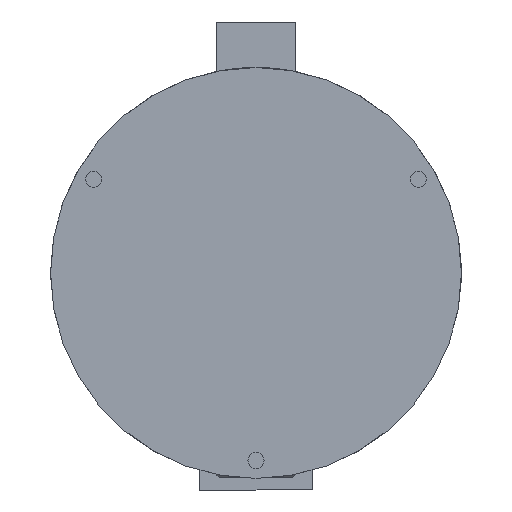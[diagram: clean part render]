
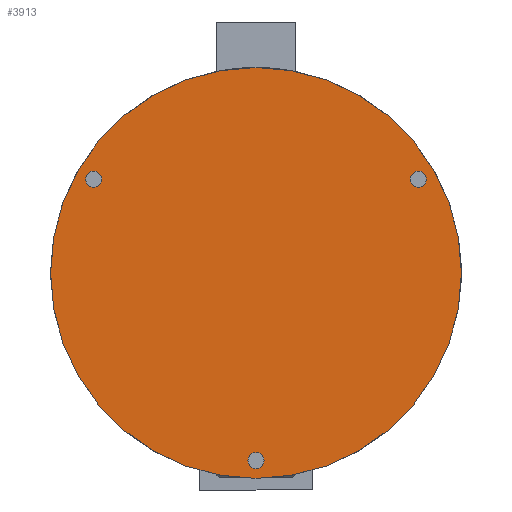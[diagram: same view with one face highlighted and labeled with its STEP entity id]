
A CAD part, front view. The second image highlights one B-rep face of the part: STEP entity #3913.
In plain terms, the highlighted planar face has unit normal (0, -1, 0).
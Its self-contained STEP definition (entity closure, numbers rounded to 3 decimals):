
#88 = AXIS2_PLACEMENT_3D ( 'NONE', #1380, #4863, #7116 ) ;
#148 = EDGE_CURVE ( 'NONE', #1123, #1282, #7317, .T. ) ;
#199 = CARTESIAN_POINT ( 'NONE',  ( -90.933, 0., 52.5 ) ) ;
#201 = DIRECTION ( 'NONE',  ( 0., 0., 1. ) ) ;
#306 = AXIS2_PLACEMENT_3D ( 'NONE', #8671, #4409, #201 ) ;
#469 = DIRECTION ( 'NONE',  ( 0., 0., 1. ) ) ;
#602 = FACE_BOUND ( 'NONE', #1820, .T. ) ;
#668 = PLANE ( 'NONE',  #88 ) ;
#744 = DIRECTION ( 'NONE',  ( 0., 1., 0. ) ) ;
#754 = DIRECTION ( 'NONE',  ( 0., 0., 1. ) ) ;
#904 = DIRECTION ( 'NONE',  ( 0., 0., 1. ) ) ;
#1055 = EDGE_LOOP ( 'NONE', ( #7172, #5445 ) ) ;
#1123 = VERTEX_POINT ( 'NONE', #6511 ) ;
#1282 = VERTEX_POINT ( 'NONE', #8253 ) ;
#1380 = CARTESIAN_POINT ( 'NONE',  ( 0., 0., 0. ) ) ;
#1405 = AXIS2_PLACEMENT_3D ( 'NONE', #199, #5109, #904 ) ;
#1493 = EDGE_LOOP ( 'NONE', ( #7701, #8046 ) ) ;
#1569 = EDGE_CURVE ( 'NONE', #6429, #7520, #3601, .T. ) ;
#1731 = EDGE_CURVE ( 'NONE', #1282, #1123, #3964, .T. ) ;
#1803 = CARTESIAN_POINT ( 'NONE',  ( 0., 0., 115. ) ) ;
#1820 = EDGE_LOOP ( 'NONE', ( #6465, #9091 ) ) ;
#1859 = CARTESIAN_POINT ( 'NONE',  ( -90.933, 0., 48. ) ) ;
#1994 = CARTESIAN_POINT ( 'NONE',  ( 0., 0., 0. ) ) ;
#2240 = VERTEX_POINT ( 'NONE', #1859 ) ;
#2466 = CIRCLE ( 'NONE', #7690, 4.5 ) ;
#2731 = VERTEX_POINT ( 'NONE', #5681 ) ;
#3261 = EDGE_CURVE ( 'NONE', #7520, #6429, #5558, .T. ) ;
#3288 = ORIENTED_EDGE ( 'NONE', *, *, #1569, .F. ) ;
#3601 = CIRCLE ( 'NONE', #5760, 115. ) ;
#3672 = EDGE_CURVE ( 'NONE', #2731, #5833, #6733, .T. ) ;
#3711 = AXIS2_PLACEMENT_3D ( 'NONE', #8298, #3985, #8960 ) ;
#3913 = ADVANCED_FACE ( 'NONE', ( #602, #8139, #6057, #4102 ), #668, .F. ) ;
#3964 = CIRCLE ( 'NONE', #8136, 4.5 ) ;
#3985 = DIRECTION ( 'NONE',  ( 0., 1., 0. ) ) ;
#4069 = DIRECTION ( 'NONE',  ( 0., 1., 0. ) ) ;
#4102 = FACE_OUTER_BOUND ( 'NONE', #6777, .T. ) ;
#4409 = DIRECTION ( 'NONE',  ( 0., 1., 0. ) ) ;
#4605 = CARTESIAN_POINT ( 'NONE',  ( 90.933, 0., 57. ) ) ;
#4669 = DIRECTION ( 'NONE',  ( 0., 1., 0. ) ) ;
#4863 = DIRECTION ( 'NONE',  ( 0., 1., 0. ) ) ;
#5109 = DIRECTION ( 'NONE',  ( 0., 1., 0. ) ) ;
#5158 = CIRCLE ( 'NONE', #1405, 4.5 ) ;
#5174 = CIRCLE ( 'NONE', #6349, 4.5 ) ;
#5197 = CARTESIAN_POINT ( 'NONE',  ( 0., 0., -105. ) ) ;
#5364 = CARTESIAN_POINT ( 'NONE',  ( -90.933, 0., 57. ) ) ;
#5385 = DIRECTION ( 'NONE',  ( 0., 0., 1. ) ) ;
#5391 = DIRECTION ( 'NONE',  ( 0., 1., 0. ) ) ;
#5445 = ORIENTED_EDGE ( 'NONE', *, *, #148, .T. ) ;
#5523 = EDGE_CURVE ( 'NONE', #5833, #2731, #5174, .T. ) ;
#5558 = CIRCLE ( 'NONE', #3711, 115. ) ;
#5681 = CARTESIAN_POINT ( 'NONE',  ( 90.933, 0., 48. ) ) ;
#5760 = AXIS2_PLACEMENT_3D ( 'NONE', #1994, #744, #754 ) ;
#5833 = VERTEX_POINT ( 'NONE', #4605 ) ;
#5991 = EDGE_CURVE ( 'NONE', #2240, #8469, #5158, .T. ) ;
#6057 = FACE_BOUND ( 'NONE', #1055, .T. ) ;
#6349 = AXIS2_PLACEMENT_3D ( 'NONE', #8925, #4669, #469 ) ;
#6429 = VERTEX_POINT ( 'NONE', #8533 ) ;
#6465 = ORIENTED_EDGE ( 'NONE', *, *, #7032, .T. ) ;
#6511 = CARTESIAN_POINT ( 'NONE',  ( 0., 0., -109.5 ) ) ;
#6733 = CIRCLE ( 'NONE', #306, 4.5 ) ;
#6777 = EDGE_LOOP ( 'NONE', ( #3288, #8800 ) ) ;
#7032 = EDGE_CURVE ( 'NONE', #8469, #2240, #2466, .T. ) ;
#7116 = DIRECTION ( 'NONE',  ( 0., 0., 1. ) ) ;
#7129 = AXIS2_PLACEMENT_3D ( 'NONE', #7591, #8228, #8633 ) ;
#7172 = ORIENTED_EDGE ( 'NONE', *, *, #1731, .T. ) ;
#7317 = CIRCLE ( 'NONE', #7129, 4.5 ) ;
#7520 = VERTEX_POINT ( 'NONE', #1803 ) ;
#7591 = CARTESIAN_POINT ( 'NONE',  ( 0., 0., -105. ) ) ;
#7690 = AXIS2_PLACEMENT_3D ( 'NONE', #8372, #4069, #9050 ) ;
#7701 = ORIENTED_EDGE ( 'NONE', *, *, #5523, .T. ) ;
#8046 = ORIENTED_EDGE ( 'NONE', *, *, #3672, .T. ) ;
#8136 = AXIS2_PLACEMENT_3D ( 'NONE', #5197, #5391, #5385 ) ;
#8139 = FACE_BOUND ( 'NONE', #1493, .T. ) ;
#8228 = DIRECTION ( 'NONE',  ( 0., 1., 0. ) ) ;
#8253 = CARTESIAN_POINT ( 'NONE',  ( 0., 0., -100.5 ) ) ;
#8298 = CARTESIAN_POINT ( 'NONE',  ( 0., 0., 0. ) ) ;
#8372 = CARTESIAN_POINT ( 'NONE',  ( -90.933, 0., 52.5 ) ) ;
#8469 = VERTEX_POINT ( 'NONE', #5364 ) ;
#8533 = CARTESIAN_POINT ( 'NONE',  ( 0., 0., -115. ) ) ;
#8633 = DIRECTION ( 'NONE',  ( 0., 0., 1. ) ) ;
#8671 = CARTESIAN_POINT ( 'NONE',  ( 90.933, 0., 52.5 ) ) ;
#8800 = ORIENTED_EDGE ( 'NONE', *, *, #3261, .F. ) ;
#8925 = CARTESIAN_POINT ( 'NONE',  ( 90.933, 0., 52.5 ) ) ;
#8960 = DIRECTION ( 'NONE',  ( 0., 0., 1. ) ) ;
#9050 = DIRECTION ( 'NONE',  ( 0., 0., 1. ) ) ;
#9091 = ORIENTED_EDGE ( 'NONE', *, *, #5991, .T. ) ;
